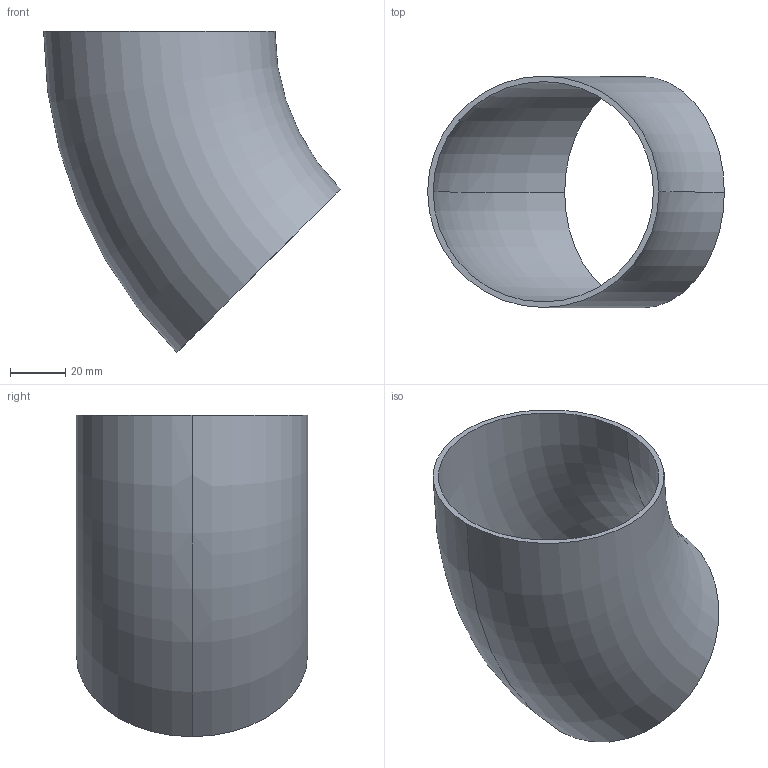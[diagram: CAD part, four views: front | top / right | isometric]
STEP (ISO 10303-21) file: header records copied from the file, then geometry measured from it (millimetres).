
FILE_DESCRIPTION (( 'STEP AP203' ), '1' );
FILE_NAME ('3D_R1650_84x2_17351400.STEP', '2024-08-03T09:03:01', ( '' ), ( '' ), 'SwSTEP 2.0', 'SolidWorks 2024', '' );
FILE_SCHEMA (( 'CONFIG_CONTROL_DESIGN' ));
Length unit declared in the file: millimetre
Products named in the file (1): 3D_R1650_84x2_17351400
Bounding box: 107.72 x 84 x 116.67 mm (x, y, z)
Volume: 49772.4 mm3; surface area: 50802.9 mm2
Topology: 1 solids, 1 shells, 6 faces, 12 edges, 8 vertices
Faces by surface type: torus 4, plane 2
Entity records: 249 total; most frequent: DIRECTION 38, CARTESIAN_POINT 27, ORIENTED_EDGE 24, AXIS2_PLACEMENT_3D 19, CIRCLE 12, EDGE_CURVE 12, VERTEX_POINT 8, PERSON_AND_ORGANIZATION 8
